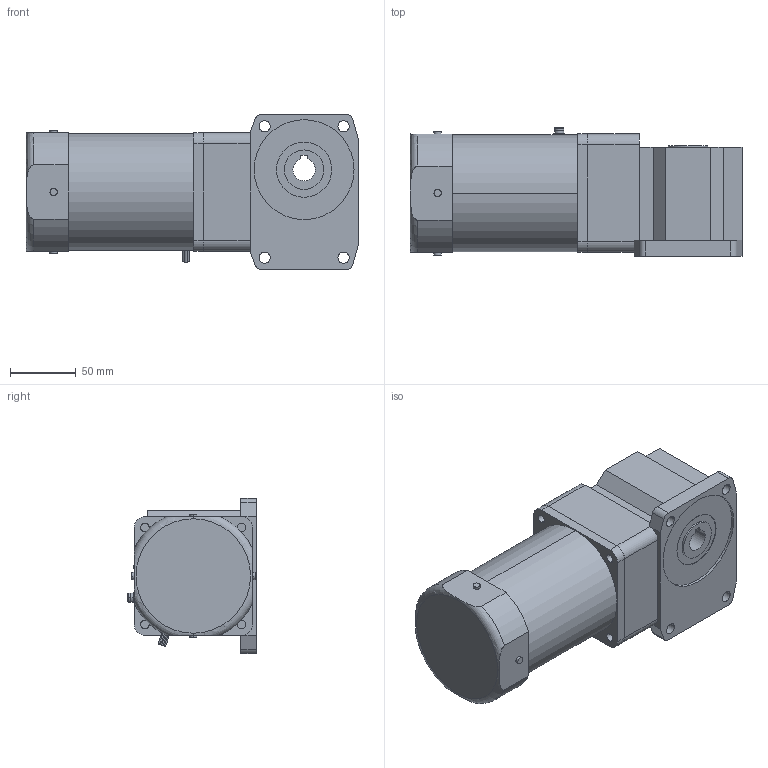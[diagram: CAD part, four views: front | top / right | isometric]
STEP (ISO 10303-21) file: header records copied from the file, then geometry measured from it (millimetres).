
FILE_DESCRIPTION(('starvars output'),'2;1');
FILE_NAME('5IK90GE-AW2U _ 5GE5RH.stp','10:53:43 2015/05/11',( 'Thomas Industrial Network Germany GmbH'),( 'Thomas Industrial Network Germany GmbH'),'unknown preprocess','ACIS' ,'unknown authorization');
FILE_SCHEMA(('AUTOMOTIVE_DESIGN_CC2 {UNKNOWN IMPLEMENTATION LEVEL}'));
Length unit declared in the file: millimetre
Products named in the file (1): PRODUCT_ID_2850
Bounding box: 252.5 x 98 x 118 mm (x, y, z)
Volume: 1744230.7 mm3; surface area: 110009.7 mm2
Topology: 1 solids, 1 shells, 166 faces, 405 edges, 267 vertices
Faces by surface type: plane 80, cylinder 80, torus 6
Entity records: 6040 total; most frequent: CARTESIAN_POINT 1002, ORIENTED_EDGE 810, DIRECTION 672, EDGE_CURVE 405, VERTEX_POINT 267, AXIS2_PLACEMENT_3D 229, VECTOR 214, LINE 214
